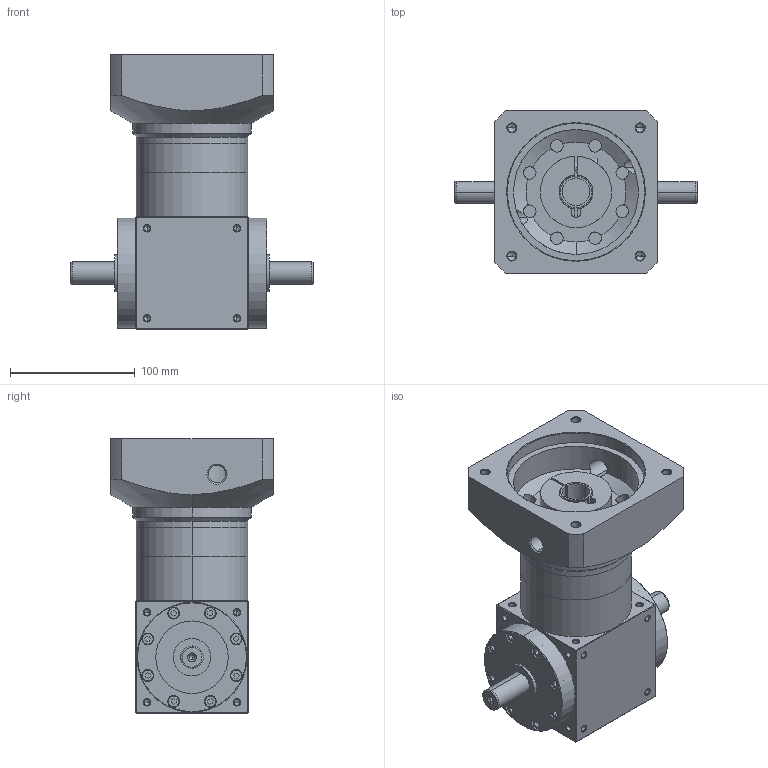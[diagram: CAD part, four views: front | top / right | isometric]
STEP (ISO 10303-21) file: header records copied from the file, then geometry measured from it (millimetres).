
FILE_DESCRIPTION (( 'STEP AP203' ), '1' );
FILE_NAME ('AT090-FL-L2-22-110-145M8.STEP', '2025-12-05T02:02:32', ( 'Windows User' ), ( 'P R C' ), 'SwSTEP 2.0', 'SolidWorks 2016', '' );
FILE_SCHEMA (( 'CONFIG_CONTROL_DESIGN' ));
Length unit declared in the file: millimetre
Products named in the file (7): 输入胀套-27; 输入轴套-24-22; AT090-FL-L2-22-110-145M8; AT90-转角箱体-双轴-输出; AT90蛌倰怀堤楊擘; AT90单级齿圈; AT90-输入法兰-F-110-M8-145
Assembly tree (6 placements, depth 2):
  AT090-FL-L2-22-110-145M8
    AT90-转角箱体-双轴-输出
    AT90蛌倰怀堤楊擘
    AT90单级齿圈
    AT90-输入法兰-F-110-M8-145
    输入胀套-27
    输入轴套-24-22
Bounding box: 194 x 130 x 220 mm (x, y, z)
Volume: 1541890.5 mm3; surface area: 245086.3 mm2
Topology: 6 solids, 18 shells, 1459 faces, 3716 edges, 2338 vertices
Faces by surface type: plane 734, cylinder 320, cone 240, bspline 165
Entity records: 51333 total; most frequent: CARTESIAN_POINT 16962, ORIENTED_EDGE 7240, DIRECTION 6388, EDGE_CURVE 3620, VECTOR 2360, LINE 2360, VERTEX_POINT 2338, AXIS2_PLACEMENT_3D 2014
